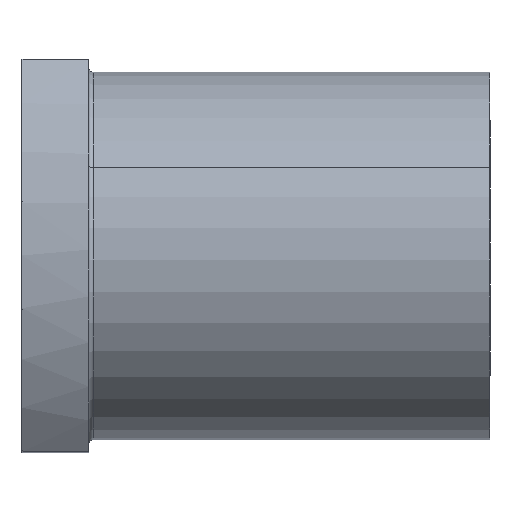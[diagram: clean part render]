
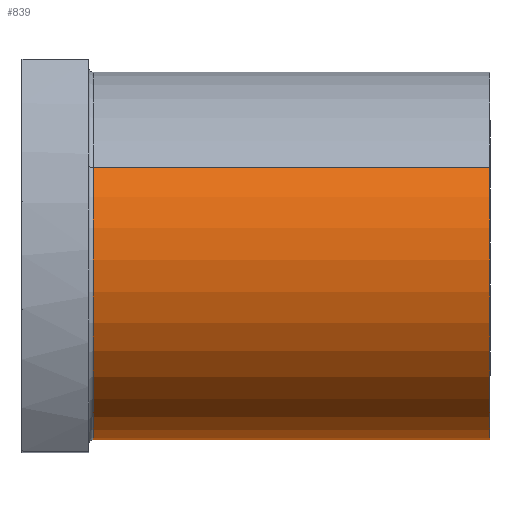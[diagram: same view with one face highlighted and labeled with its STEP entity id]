
A CAD part, top view. The second image highlights one B-rep face of the part: STEP entity #839.
In plain terms, the highlighted cylindrical face has radius 22 mm (diameter 44 mm), a partial arc.
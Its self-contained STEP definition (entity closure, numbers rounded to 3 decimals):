
#591=CARTESIAN_POINT('Vertex',(8.5,10.547,19.307)) ;
#598=CARTESIAN_POINT('Vertex',(8.5,-10.547,-19.307)) ;
#618=CARTESIAN_POINT('Axis2P3D Location',(8.5,0.,0.)) ;
#797=CARTESIAN_POINT('Line Origine',(67.671,10.547,19.307)) ;
#801=CARTESIAN_POINT('Vertex',(56.,10.547,19.307)) ;
#808=CARTESIAN_POINT('Vertex',(56.,-10.547,-19.307)) ;
#811=CARTESIAN_POINT('Line Origine',(67.671,-10.547,-19.307)) ;
#823=CARTESIAN_POINT('Axis2P3D Location',(67.671,0.,0.)) ;
#828=CARTESIAN_POINT('Axis2P3D Location',(56.,0.,0.)) ;
#619=DIRECTION('Axis2P3D Direction',(-1.,0.,-0.)) ;
#798=DIRECTION('Vector Direction',(-1.,0.,0.)) ;
#812=DIRECTION('Vector Direction',(-1.,0.,0.)) ;
#824=DIRECTION('Axis2P3D Direction',(-1.,0.,0.)) ;
#825=DIRECTION('Axis2P3D XDirection',(0.,-0.479,-0.878)) ;
#829=DIRECTION('Axis2P3D Direction',(-1.,0.,0.)) ;
#620=AXIS2_PLACEMENT_3D('Circle Axis2P3D',#618,#619,$) ;
#826=AXIS2_PLACEMENT_3D('Cylinder Axis2P3D',#823,#824,#825) ;
#830=AXIS2_PLACEMENT_3D('Circle Axis2P3D',#828,#829,$) ;
#834=ORIENTED_EDGE('',*,*,#815,.F.) ;
#835=ORIENTED_EDGE('',*,*,#832,.F.) ;
#836=ORIENTED_EDGE('',*,*,#803,.T.) ;
#837=ORIENTED_EDGE('',*,*,#622,.T.) ;
#799=VECTOR('Line Direction',#798,1.) ;
#813=VECTOR('Line Direction',#812,1.) ;
#839=ADVANCED_FACE('ATM32',(#838),#827,.T.) ;
#621=CIRCLE('generated circle',#620,22.) ;
#831=CIRCLE('generated circle',#830,22.) ;
#827=CYLINDRICAL_SURFACE('generated cylinder',#826,22.) ;
#622=EDGE_CURVE('',#592,#599,#621,.F.) ;
#803=EDGE_CURVE('',#802,#592,#800,.T.) ;
#815=EDGE_CURVE('',#809,#599,#814,.T.) ;
#832=EDGE_CURVE('',#802,#809,#831,.F.) ;
#833=EDGE_LOOP('',(#834,#835,#836,#837)) ;
#838=FACE_OUTER_BOUND('',#833,.T.) ;
#800=LINE('Line',#797,#799) ;
#814=LINE('Line',#811,#813) ;
#592=VERTEX_POINT('',#591) ;
#599=VERTEX_POINT('',#598) ;
#802=VERTEX_POINT('',#801) ;
#809=VERTEX_POINT('',#808) ;
